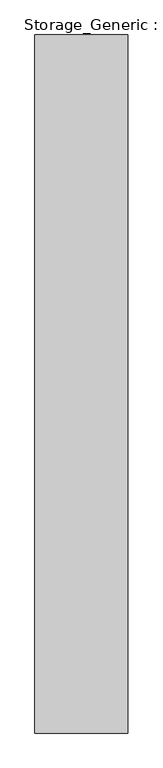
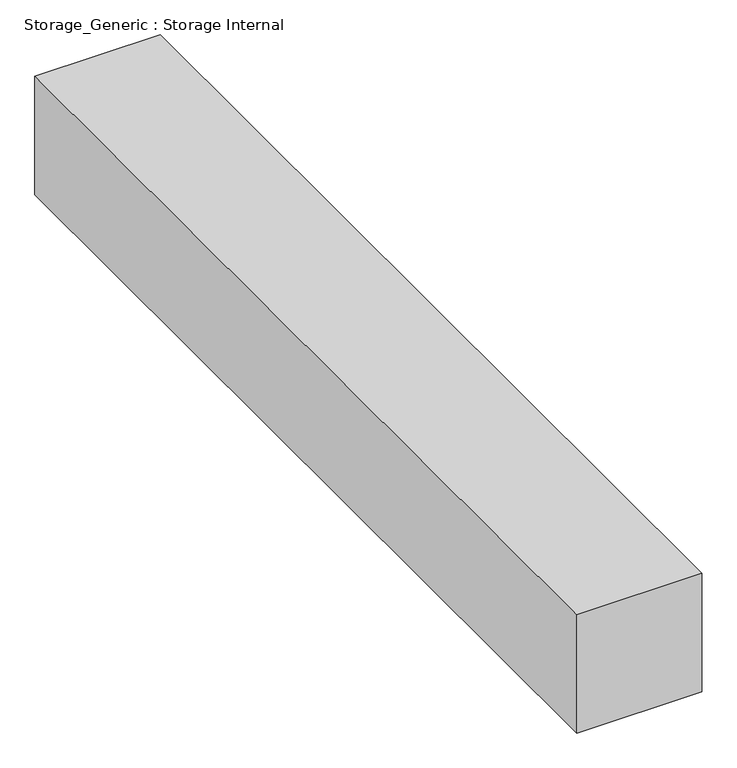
"""IFC4 building model written with IfcOpenShell, lengths in millimetres: furniture geometry, Storage_Generic : Storage Internal."""

from ifc_helpers import new_model, si_unit, origin, origin_with_axes, place, context, project, spatial, polyline, outline, extrude, source, transform, mapped, element, save


def storage_generic_storage_internal_09a0006c(model_context):
    return source(origin(), model_context, "Body", "SweptSolid", [
        extrude(outline(polyline([(-55.2996736, 0.0), (-455.2996736, 0.0), (-455.2996736, 3000.0), (-55.2996736, 3000.0), (-55.2996736, 0.0)])), origin_with_axes(), (0.0, 0.0, 1.0), 400.0),
    ])


if __name__ == "__main__":
    model = new_model("IFC4")
    model_context = context("Model", 3, world=origin())
    ifc_project = project(units=[si_unit("LENGTHUNIT", "METRE", prefix="MILLI")], contexts=[model_context])
    site = spatial("IfcSite", under=ifc_project)
    building = spatial("IfcBuilding", under=site)
    placement = place(None, origin())
    storage_generic_storage_internal_shape = storage_generic_storage_internal_09a0006c(model_context)
    element("IfcFurniture", 1, ObjectType="Storage_Generic : Storage Internal", at=placement, inside=building, context=model_context, shape_type="MappedRepresentation", body=[
        mapped(storage_generic_storage_internal_shape, transform((0.0, 0.0, 0.0), x_axis=(1.0, 0.0, 0.0), y_axis=(0.0, 1.0, 0.0), z_axis=(0.0, 0.0, 1.0))),
    ])
    save(model, "model.ifc")
